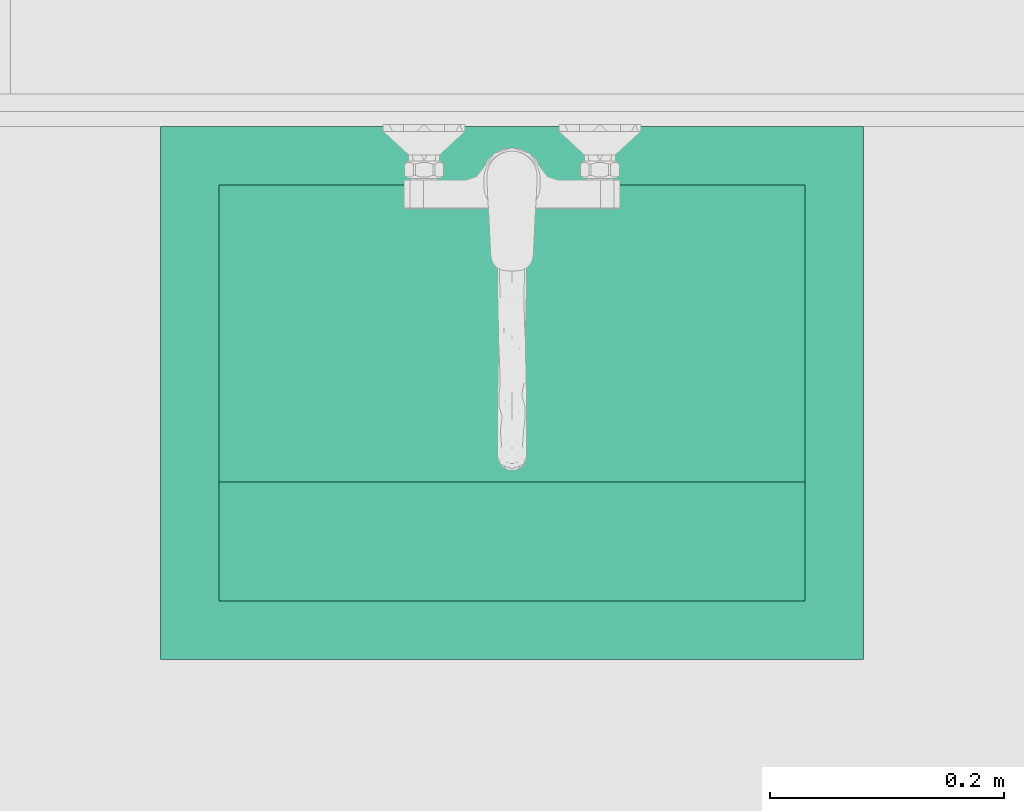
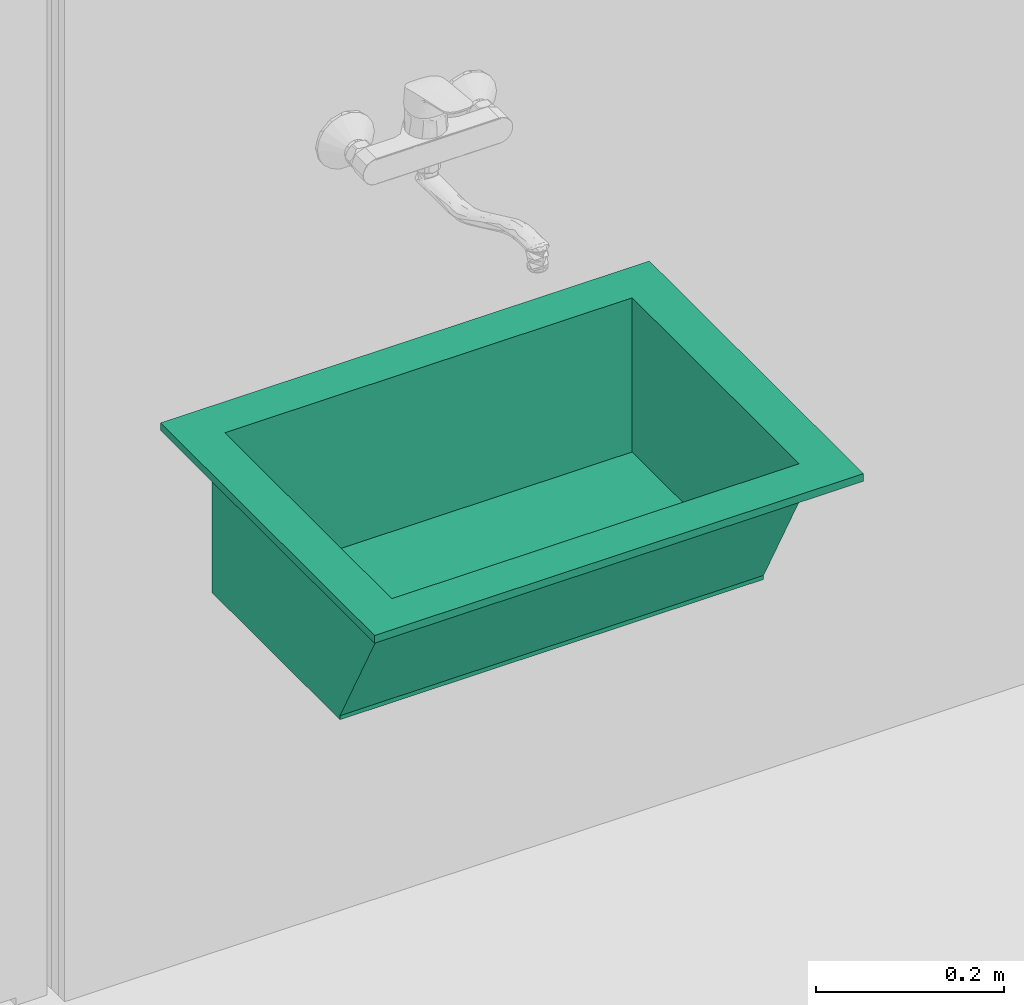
# One storey, part 29 of 67: 1 flow terminal.
"""IFC4 building model written with IfcOpenShell, lengths in millimetres."""

import ifcopenshell
import ifcopenshell.guid

model = None  # the IFC model being written
_history = None  # IfcOwnerHistory: only IFC2X3 demands one
_inside = {}  # id of a spatial element -> (the spatial element, [elements in it])
_under = {}  # id of a project, library or spatial element -> (it, [spatial elements below it])
_declared = {}  # id of a project -> (the project, [libraries it declares])
_typed = {}  # id of a type object -> (the type object, [elements of that type])
_made_of = {}  # id of a material, layer set ... -> (it, [elements and type objects made of it])


def new_model(schema):
    """Start an empty IFC model of exactly this schema.

    Asked for "IFC4X3", IfcOpenShell would pick the latest addendum, in which some entities
    have other attributes; the version numbers below select the first issue.
    IFC2X3 requires an IfcOwnerHistory on every rooted entity: one is made here for all.
    """
    global model, _history
    if schema == "IFC4X3":
        model = ifcopenshell.file(schema_version=(4, 3, 0, 0))
    else:
        model = ifcopenshell.file(schema=schema)
    _inside.clear()
    _under.clear()
    _declared.clear()
    _typed.clear()
    _made_of.clear()
    _history = None
    if model.schema == "IFC2X3":
        org = make("IfcOrganization", Name="unknown")
        user = make(
            "IfcPersonAndOrganization",
            ThePerson=make("IfcPerson", FamilyName="unknown"),
            TheOrganization=org,
        )
        app = make(
            "IfcApplication",
            ApplicationDeveloper=org,
            Version="unknown",
            ApplicationFullName="unknown",
            ApplicationIdentifier="unknown",
        )
        _history = make(
            "IfcOwnerHistory",
            OwningUser=user,
            OwningApplication=app,
            ChangeAction="ADDED",
            CreationDate=0,
        )
    return model


def make(cls, **values):
    """One entity of the class cls with the attributes given. An attribute that is None is left unset."""
    return model.create_entity(
        cls, **{name: value for name, value in values.items() if value is not None}
    )


def entity(cls, *values):
    """Any entity or typed value of the class cls, its attributes in the order of the schema. None: left unset."""
    e = model.create_entity(cls)
    for i, value in enumerate(values):
        if value is not None:
            e[i] = value
    return e


def rooted(cls, **values):
    """An entity with a GlobalId (a new one), such as an element, a storey or a relation."""
    return make(cls, GlobalId=ifcopenshell.guid.new(), OwnerHistory=_history, **values)


def si_unit(unit_type, name, prefix=None):
    """IfcSIUnit, for example si_unit("LENGTHUNIT", "METRE", prefix="MILLI")."""
    return make("IfcSIUnit", UnitType=unit_type, Prefix=prefix, Name=name)


def converted_unit(unit_type, name, factor, base, dimensions=None, offset=None):
    """IfcConversionBasedUnit, such as the inch: factor (a typed value) times the base unit."""
    return make(
        "IfcConversionBasedUnit"
        if offset is None
        else "IfcConversionBasedUnitWithOffset",
        ConversionOffset=offset,
        Dimensions=None
        if dimensions is None
        else entity("IfcDimensionalExponents", *dimensions),
        UnitType=unit_type,
        Name=name,
        ConversionFactor=make(
            "IfcMeasureWithUnit", ValueComponent=factor, UnitComponent=base
        ),
    )


def assignment(units):
    """IfcUnitAssignment: the units of a project."""
    return None if units is None else make("IfcUnitAssignment", Units=units)


def point(xyz):
    """IfcCartesianPoint."""
    return None if xyz is None else make("IfcCartesianPoint", Coordinates=xyz)


def direction(xyz):
    """IfcDirection."""
    return None if xyz is None else make("IfcDirection", DirectionRatios=xyz)


def frame(location, z_axis=None, x_axis=None):
    """IfcAxis2Placement3D, a coordinate frame: its origin and axes. An axis left out is left unset."""
    return make(
        "IfcAxis2Placement3D",
        Location=point(location),
        Axis=direction(z_axis),
        RefDirection=direction(x_axis),
    )


def origin():
    """The frame at (0, 0, 0) with its axes left unset."""
    return frame((0.0, 0.0, 0.0))


def place(relative_to, where):
    """IfcLocalPlacement: puts the frame where relative to a parent placement (None: the world)."""
    return make(
        "IfcLocalPlacement", PlacementRelTo=relative_to, RelativePlacement=where
    )


def context(
    kind, dimensions, precision=None, world=None, true_north=None, identifier=None
):
    """IfcGeometricRepresentationContext, for example the 3D "Model" context."""
    return make(
        "IfcGeometricRepresentationContext",
        ContextIdentifier=identifier,
        ContextType=kind,
        CoordinateSpaceDimension=dimensions,
        Precision=precision,
        WorldCoordinateSystem=world,
        TrueNorth=true_north,
    )


def subcontext(parent, identifier, kind, view, scale=None):
    """IfcGeometricRepresentationSubContext, for example "Body" below "Model"."""
    return make(
        "IfcGeometricRepresentationSubContext",
        ContextIdentifier=identifier,
        ContextType=kind,
        ParentContext=parent,
        TargetScale=scale,
        TargetView=view,
    )


def project(units=None, contexts=None):
    """IfcProject with its units and contexts."""
    return rooted(
        "IfcProject",
        Name="project",
        RepresentationContexts=contexts,
        UnitsInContext=assignment(units),
    )


def spatial(cls, under=None, at=None, **own):
    """A site, building, storey or space (cls), placed at a placement, below another one or the project."""
    s = rooted(cls, ObjectPlacement=at, **own)
    if under is not None:
        _under.setdefault(under.id(), (under, []))[1].append(s)
    return s


def point_list(points):
    """IfcCartesianPointList2D or 3D."""
    cls = (
        "IfcCartesianPointList2D" if len(points[0]) == 2 else "IfcCartesianPointList3D"
    )
    return make(cls, CoordList=points)


def indexed_curve(points, segments=None, self_intersect=None):
    """IfcIndexedPolyCurve: lines and arcs through numbered points (the first is 1)."""
    return make(
        "IfcIndexedPolyCurve",
        Points=point_list(points),
        Segments=segments,
        SelfIntersect=self_intersect,
    )


def outline(outer, holes=None, kind="AREA"):
    """IfcArbitraryClosedProfileDef: a profile drawn as a closed curve; with holes, ...WithVoids."""
    if holes is None:
        return make("IfcArbitraryClosedProfileDef", ProfileType=kind, OuterCurve=outer)
    return make(
        "IfcArbitraryProfileDefWithVoids",
        ProfileType=kind,
        OuterCurve=outer,
        InnerCurves=holes,
    )


def extrude(swept, where, along, depth):
    """IfcExtrudedAreaSolid: the profile swept, set in the frame where, extruded along a direction by depth."""
    return make(
        "IfcExtrudedAreaSolid",
        SweptArea=swept,
        Position=where,
        ExtrudedDirection=direction(along),
        Depth=depth,
    )


def shape(context_of_items, identifier, shape_type, items):
    """IfcShapeRepresentation: the items that make up one representation, for example the "Body"."""
    return make(
        "IfcShapeRepresentation",
        ContextOfItems=context_of_items,
        RepresentationIdentifier=identifier,
        RepresentationType=shape_type,
        Items=items,
    )


def source(mapping_origin, context_of_items, identifier, shape_type, items):
    """IfcRepresentationMap: a shape defined once, which mapped items show again and again."""
    return make(
        "IfcRepresentationMap",
        MappingOrigin=mapping_origin,
        MappedRepresentation=shape(context_of_items, identifier, shape_type, items),
    )


def transform(
    local_origin,
    x_axis=None,
    y_axis=None,
    z_axis=None,
    scale=None,
    scale2=None,
    scale3=None,
    uniform=True,
):
    """IfcCartesianTransformationOperator3D, or its non-uniform kind. x_axis, y_axis, z_axis: its Axis1, 2, 3."""
    if uniform:
        return make(
            "IfcCartesianTransformationOperator3D",
            Axis1=direction(x_axis),
            Axis2=direction(y_axis),
            LocalOrigin=point(local_origin),
            Scale=scale,
            Axis3=direction(z_axis),
        )
    return make(
        "IfcCartesianTransformationOperator3DnonUniform",
        Axis1=direction(x_axis),
        Axis2=direction(y_axis),
        LocalOrigin=point(local_origin),
        Scale=scale,
        Axis3=direction(z_axis),
        Scale2=scale2,
        Scale3=scale3,
    )


def mapped(mapping_source, mapping_target):
    """IfcMappedItem: shows the shape of a source again, moved by a transform."""
    return make(
        "IfcMappedItem", MappingSource=mapping_source, MappingTarget=mapping_target
    )


def material(Name=None, Category=None):
    """IfcMaterial."""
    return make("IfcMaterial", Name=Name, Category=Category)


def made_of(thing, what):
    """Note that an element or type object is made of a material, layer set ...; save() writes the relation."""
    if what is not None:
        _made_of.setdefault(what.id(), (what, []))[1].append(thing)
    return thing


def type_object(cls, material=None, **own):
    """A type object (cls), such as IfcWallType, which elements share."""
    return made_of(rooted(cls, **own), material)


def type_shapes(of_type, sources):
    """Give a type object the sources (RepresentationMaps) that its elements show as mapped items."""
    of_type.RepresentationMaps = sources


def element(
    cls,
    number,
    at=None,
    inside=None,
    cuts=None,
    type_object=None,
    material=None,
    context=None,
    identifier="Body",
    shape_type=None,
    held_by="IfcProductDefinitionShape",
    body=None,
    shapes=None,
    **own,
):
    """One element of the class cls, such as IfcWall. Its Tag is "e" and its number.

    at: its placement. inside: the storey or other place that contains it. cuts: it is an
    opening in that element (IfcRelVoidsElement). A single representation is given by context,
    identifier, shape_type and body (its items); several are given by shapes. held_by: the class
    of the entity that holds the representations. save() writes the other relations.
    """
    e = rooted(cls, Tag="e%d" % number, ObjectPlacement=at, **own)
    if body is not None:
        shapes = [shape(context, identifier, shape_type, body)]
    if shapes is not None:
        e.Representation = make(held_by, Representations=shapes)
    if inside is not None:
        _inside.setdefault(inside.id(), (inside, []))[1].append(e)
    if cuts is not None:
        rooted(
            "IfcRelVoidsElement", RelatingBuildingElement=cuts, RelatedOpeningElement=e
        )
    if type_object is not None:
        _typed.setdefault(type_object.id(), (type_object, []))[1].append(e)
    return made_of(e, material)


def aggregate(whole, parts):
    """IfcRelAggregates: a whole, such as a stair, and the parts it consists of."""
    return rooted("IfcRelAggregates", RelatingObject=whole, RelatedObjects=parts)


def save(model, path):
    """Write the relations noted so far, then the file.

    IfcRelAggregates (storeys below a building ...), IfcRelContainedInSpatialStructure (elements
    in a storey), IfcRelDefinesByType, IfcRelAssociatesMaterial and IfcRelDeclares: one each for
    every whole, place, type object, material and project.
    """
    for whole, parts in _under.values():
        aggregate(whole, parts)
    for where, things in _inside.values():
        rooted(
            "IfcRelContainedInSpatialStructure",
            RelatedElements=things,
            RelatingStructure=where,
        )
    for kind, things in _typed.values():
        rooted("IfcRelDefinesByType", RelatedObjects=things, RelatingType=kind)
    for what, things in _made_of.values():
        rooted("IfcRelAssociatesMaterial", RelatedObjects=things, RelatingMaterial=what)
    for by, libraries in _declared.values():
        rooted("IfcRelDeclares", RelatingContext=by, RelatedDefinitions=libraries)
    model.write(path)


model = new_model("IFC4")

# Units and contexts
model_context = context("Model", 3, precision=0.01, world=origin(), true_north=direction((0.0, 1.0)))
body_context = subcontext(model_context, "Body", "Model", "MODEL_VIEW")
ifc_project = project(units=[si_unit("LENGTHUNIT", "METRE", prefix="MILLI"), si_unit("AREAUNIT", "SQUARE_METRE"), si_unit("VOLUMEUNIT", "CUBIC_METRE"), converted_unit("PLANEANGLEUNIT", "DEGREE", entity("IfcPlaneAngleMeasure", 0.017453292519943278), si_unit("PLANEANGLEUNIT", "RADIAN"), dimensions=[0, 0, 0, 0, 0, 0, 0])], contexts=[model_context])

# Site, building, storey, space
site_placement = place(None, origin())
site = spatial("IfcSite", under=ifc_project, at=site_placement, Name="Tomtens navn", CompositionType="ELEMENT")
building_placement = place(site_placement, origin())
building = spatial("IfcBuilding", under=site, at=building_placement, Name="Byggets navn", CompositionType="ELEMENT")
storey_placement = place(building_placement, origin())
storey = spatial("IfcBuildingStorey", under=building, at=storey_placement, Name="Level 01", CompositionType="ELEMENT", Elevation=2.1993652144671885e-25)
space_placement = place(storey_placement, origin())
space = spatial("IfcSpace", under=storey, at=space_placement, Name="113", CompositionType="ELEMENT", PredefinedType="NOTDEFINED")

# Flow terminal
ifc_material = material(Name="Metal - Aluminium", Category="Unassigned")
distribution_element_type = type_object("IfcDistributionElementType", Name="Sink_03:Middels", material=ifc_material)
shared_shape = source(origin(), body_context, "Body", "SweptSolid", [
    extrude(outline(indexed_curve([(-300.0, -227.50000000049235), (300.0, -227.50000000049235), (300.0, 227.50000000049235), (-300.0, 227.50000000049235), (-300.0, -227.50000000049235)], self_intersect=False), holes=[indexed_curve([(-249.99999999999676, -177.50000000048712), (-249.9999999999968, 177.50000000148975), (250.0000000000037, 177.50000000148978), (250.00000000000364, -177.50000000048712), (-249.99999999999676, -177.50000000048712)], self_intersect=False)]), frame((94.41156576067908, -91.92530613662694, 890.0)), (0.0, 0.0, 1.0), 10.000000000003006),
    extrude(outline(indexed_curve([(-5.000000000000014, -250.00000000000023), (4.9999999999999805, -250.00000000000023), (5.000000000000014, 250.00000000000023), (-4.9999999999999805, 250.00000000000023), (-5.000000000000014, -250.00000000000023)], self_intersect=False)), frame((94.411565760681, 90.57469386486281, 700.0), z_axis=(0.0, 0.0, 1.0), x_axis=(0.0, 1.0, 0.0)), (0.0, 0.0, 1.0), 190.0000000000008),
    extrude(outline(indexed_curve([(-181.85587398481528, -138.50191830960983), (33.63452281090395, -138.5019183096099), (157.87310894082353, 93.68166888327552), (-9.651757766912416, 183.32216773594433), (-181.85587398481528, -138.50191830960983)], self_intersect=False)), frame((344.41156576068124, -61.50863946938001, 795.0), z_axis=(1.0, 0.0, 0.0), x_axis=(0.0, 0.4717920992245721, -0.8817098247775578)), (0.0, 0.0, 1.0), 9.999999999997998),
    extrude(outline(indexed_curve([(-181.85587398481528, -138.50191830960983), (33.634522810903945, -138.50191830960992), (157.87310894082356, 93.68166888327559), (-9.651757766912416, 183.32216773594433), (-181.85587398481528, -138.50191830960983)], self_intersect=False)), frame((-165.58843423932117, -61.50863946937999, 795.0), z_axis=(1.0, 0.0, 0.0), x_axis=(0.0, 0.4717920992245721, -0.8817098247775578)), (0.0, 0.0, 1.0), 10.000000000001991),
    extrude(outline(indexed_curve([(-107.74519839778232, -4.999999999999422), (107.74519839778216, -5.000000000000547), (107.74519839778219, 4.9999999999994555), (-107.7451983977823, 5.000000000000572), (-107.74519839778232, -4.999999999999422)], self_intersect=False)), frame((-165.5884342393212, -223.00052192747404, 792.6410395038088), z_axis=(1.0, 0.0, 0.0), x_axis=(0.0, 0.47179209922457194, -0.8817098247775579)), (0.0, 0.0, 1.0), 520.0000000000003),
    extrude(outline(indexed_curve([(-260.0000000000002, -136.0752157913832), (260.0000000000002, -136.0752157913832), (260.0000000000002, 136.0752157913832), (-260.0000000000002, 136.0752157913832), (-260.0000000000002, -136.0752157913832)], self_intersect=False)), frame((94.41156576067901, -40.500521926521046, 690.0), z_axis=(0.0, 0.0, 1.0), x_axis=(-1.0, 0.0, 0.0)), (0.0, 0.0, 1.0), 10.000000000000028),
])
type_shapes(distribution_element_type, [shared_shape])
flow_terminal_placement = place(space_placement, frame((63681.441962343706, 15468.391763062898, -190.0)))
element("IfcFlowTerminal", 1, at=flow_terminal_placement, inside=space, type_object=distribution_element_type, material=ifc_material, Name="Sink_03:Middels", context=body_context, shape_type="MappedRepresentation", body=[
    mapped(shared_shape, transform((0.0, 0.0, 0.0), scale=1.0)),
])

save(model, "model.ifc")
